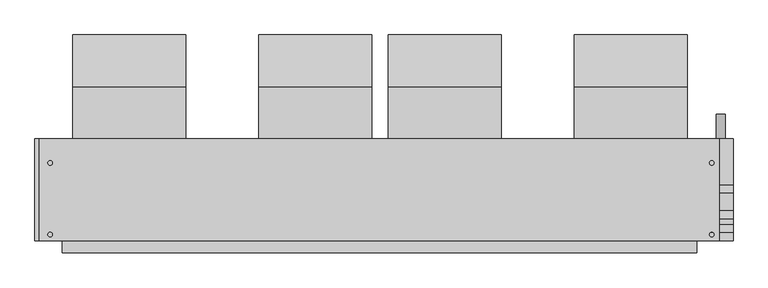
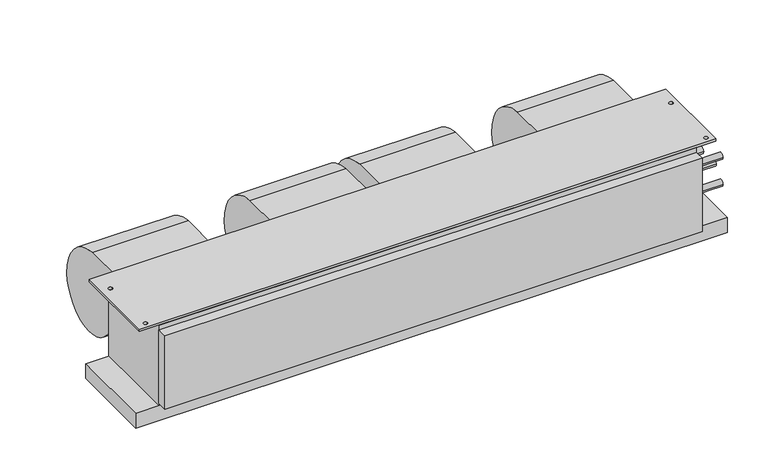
"""IFC4 building model written with IfcOpenShell, lengths in millimetres: proxy geometry, Concealed_Horizontal_Fan_Coil_Unit_-_42CAA_-_CARRIER_-_4-Pipe_RH_2022 : Size 10 - 277v/60Hz/1Ph - 4/1 Coil."""

from ifc_helpers import new_model, si_unit, point, frame, frame_2d, origin, place, context, project, spatial, polyline, circle_curve, trimmed, segment, composite_curve, outline, extrude, source, transform, mapped, element, save


def mechanical_equipment_12361658(model_context):
    return source(origin(), model_context, "Body", "SweptSolid", [
        extrude(outline(composite_curve([segment(trimmed(circle_curve(frame_2d((-33.198831, -136.0299844)), 117.3559541), [point((-23.8125, -19.05))], [point((84.1375, -138.176))], False, "CARTESIAN"), True, "CONTINUOUS"), segment(trimmed(circle_curve(frame_2d((-11.5977337, -136.4250563)), 95.7512443), [point((84.1375, -138.176))], [point((-23.8125, -231.394))], False, "CARTESIAN"), True, "CONTINUOUS"), segment(trimmed(circle_curve(frame_2d((-11.6288131, -136.6666968)), 95.5076133), [point((-23.8125, -231.394))], [point((-107.1245, -138.176))], False, "CARTESIAN"), True, "CONTINUOUS"), segment(trimmed(circle_curve(frame_2d((-126.2059828, -138.4775816)), 19.0838659), [point((-107.1245, -138.176))], [point((-119.3963373, -120.65))], True, "CARTESIAN"), True, "CONTINUOUS"), segment(polyline([(-119.3963373, -120.65), (-131.7625, -120.65), (-131.7625, -19.05), (-23.8125, -19.05)]), True, "CONTINUOUS")], self_intersect=False)), frame((558.038, 0.0, 0.0), z_axis=(1.0, 0.0, 0.0), x_axis=(0.0, 1.0, 0.0)), (0.0, 0.0, 1.0), 235.712),
        extrude(outline(composite_curve([segment(trimmed(circle_curve(frame_2d((-33.198831, -136.0299844)), 117.3559541), [point((-23.8125, -19.05))], [point((84.1375, -138.176))], False, "CARTESIAN"), True, "CONTINUOUS"), segment(trimmed(circle_curve(frame_2d((-11.5977337, -136.4250563)), 95.7512443), [point((84.1375, -138.176))], [point((-23.8125, -231.394))], False, "CARTESIAN"), True, "CONTINUOUS"), segment(trimmed(circle_curve(frame_2d((-11.6288131, -136.6666968)), 95.5076133), [point((-23.8125, -231.394))], [point((-107.1245, -138.176))], False, "CARTESIAN"), True, "CONTINUOUS"), segment(trimmed(circle_curve(frame_2d((-126.2059828, -138.4775816)), 19.0838659), [point((-107.1245, -138.176))], [point((-119.3963373, -120.65))], True, "CARTESIAN"), True, "CONTINUOUS"), segment(polyline([(-119.3963373, -120.65), (-131.7625, -120.65), (-131.7625, -19.05), (-23.8125, -19.05)]), True, "CONTINUOUS")], self_intersect=False)), frame((-486.537, 0.0, 0.0), z_axis=(1.0, 0.0, 0.0), x_axis=(0.0, 1.0, 0.0)), (0.0, 0.0, 1.0), 235.712),
        extrude(outline(composite_curve([segment(trimmed(circle_curve(frame_2d((-33.198831, -136.0299844)), 117.3559541), [point((-23.8125, -19.05))], [point((84.1375, -138.176))], False, "CARTESIAN"), True, "CONTINUOUS"), segment(trimmed(circle_curve(frame_2d((-11.5977337, -136.4250563)), 95.7512443), [point((84.1375, -138.176))], [point((-23.8125, -231.394))], False, "CARTESIAN"), True, "CONTINUOUS"), segment(trimmed(circle_curve(frame_2d((-11.6288131, -136.6666968)), 95.5076133), [point((-23.8125, -231.394))], [point((-107.1245, -138.176))], False, "CARTESIAN"), True, "CONTINUOUS"), segment(trimmed(circle_curve(frame_2d((-126.2059828, -138.4775816)), 19.0838659), [point((-107.1245, -138.176))], [point((-119.3963373, -120.65))], True, "CARTESIAN"), True, "CONTINUOUS"), segment(polyline([(-119.3963373, -120.65), (-131.7625, -120.65), (-131.7625, -19.05), (-23.8125, -19.05)]), True, "CONTINUOUS")], self_intersect=False)), frame((-99.187, 0.0, 0.0), z_axis=(1.0, 0.0, 0.0), x_axis=(0.0, 1.0, 0.0)), (0.0, 0.0, 1.0), 235.712),
        extrude(outline(composite_curve([segment(trimmed(circle_curve(frame_2d((-33.198831, -136.0299844)), 117.3559541), [point((-23.8125, -19.05))], [point((84.1375, -138.176))], False, "CARTESIAN"), True, "CONTINUOUS"), segment(trimmed(circle_curve(frame_2d((-11.5977337, -136.4250563)), 95.7512443), [point((84.1375, -138.176))], [point((-23.8125, -231.394))], False, "CARTESIAN"), True, "CONTINUOUS"), segment(trimmed(circle_curve(frame_2d((-11.6288131, -136.6666968)), 95.5076133), [point((-23.8125, -231.394))], [point((-107.1245, -138.176))], False, "CARTESIAN"), True, "CONTINUOUS"), segment(trimmed(circle_curve(frame_2d((-126.2059828, -138.4775816)), 19.0838659), [point((-107.1245, -138.176))], [point((-119.3963373, -120.65))], True, "CARTESIAN"), True, "CONTINUOUS"), segment(polyline([(-119.3963373, -120.65), (-131.7625, -120.65), (-131.7625, -19.05), (-23.8125, -19.05)]), True, "CONTINUOUS")], self_intersect=False)), frame((170.688, 0.0, 0.0), z_axis=(1.0, 0.0, 0.0), x_axis=(0.0, 1.0, 0.0)), (0.0, 0.0, 1.0), 235.712),
        extrude(outline(polyline([(860.425, -131.7625), (860.425, -344.4875), (-555.625, -344.4875), (-555.625, -131.7625), (860.425, -131.7625)]), holes=[composite_curve([segment(trimmed(circle_curve(frame_2d((-533.4, -182.5625)), 4.7625), [point((-538.1625, -182.5625))], [point((-528.6375, -182.5625))], True, "CARTESIAN"), True, "CONTINUOUS"), segment(trimmed(circle_curve(frame_2d((-533.4, -182.5625)), 4.7625), [point((-528.6375, -182.5625))], [point((-538.1625, -182.5625))], True, "CARTESIAN"), True, "CONTINUOUS")], self_intersect=False), composite_curve([segment(trimmed(circle_curve(frame_2d((-533.4, -331.7875)), 4.7625), [point((-538.1625, -331.7875))], [point((-528.6375, -331.7875))], True, "CARTESIAN"), True, "CONTINUOUS"), segment(trimmed(circle_curve(frame_2d((-533.4, -331.7875)), 4.7625), [point((-528.6375, -331.7875))], [point((-538.1625, -331.7875))], True, "CARTESIAN"), True, "CONTINUOUS")], self_intersect=False), composite_curve([segment(trimmed(circle_curve(frame_2d((844.55, -182.5625)), 4.7625), [point((839.7875, -182.5625))], [point((849.3125, -182.5625))], True, "CARTESIAN"), True, "CONTINUOUS"), segment(trimmed(circle_curve(frame_2d((844.55, -182.5625)), 4.7625), [point((849.3125, -182.5625))], [point((839.7875, -182.5625))], True, "CARTESIAN"), True, "CONTINUOUS")], self_intersect=False), composite_curve([segment(trimmed(circle_curve(frame_2d((844.55, -331.7875)), 4.7625), [point((839.7875, -331.7875))], [point((849.3125, -331.7875))], True, "CARTESIAN"), True, "CONTINUOUS"), segment(trimmed(circle_curve(frame_2d((844.55, -331.7875)), 4.7625), [point((849.3125, -331.7875))], [point((839.7875, -331.7875))], True, "CARTESIAN"), True, "CONTINUOUS")], self_intersect=False)]), frame((0.0, 0.0, -6.35), z_axis=(0.0, 0.0, 1.0), x_axis=(1.0, 0.0, 0.0)), (0.0, 0.0, 1.0), 6.35),
        extrude(outline(composite_curve([segment(trimmed(circle_curve(frame_2d((-241.3, 863.6)), 9.525), [point((-241.3, 854.075))], [point((-241.3, 873.125))], False, "CARTESIAN"), True, "CONTINUOUS"), segment(trimmed(circle_curve(frame_2d((-241.3, 863.6)), 9.525), [point((-241.3, 873.125))], [point((-241.3, 854.075))], False, "CARTESIAN"), True, "CONTINUOUS")], self_intersect=False)), frame((0.0, -131.7625, 0.0), z_axis=(0.0, 1.0, 0.0), x_axis=(0.0, 0.0, 1.0)), (0.0, 0.0, 1.0), 50.8),
        extrude(outline(polyline([(812.8, -369.8875), (-508.0, -369.8875), (-508.0, -344.4875), (812.8, -344.4875), (812.8, -369.8875)])), frame((0.0, 0.0, -209.55), z_axis=(0.0, 0.0, 1.0), x_axis=(1.0, 0.0, 0.0)), (0.0, 0.0, 1.0), 190.5),
        extrude(outline(polyline([(889.0, -131.7625), (889.0, -344.4875), (-565.15, -344.4875), (-565.15, -131.7625), (889.0, -131.7625)])), frame((0.0, 0.0, -254.0), z_axis=(0.0, 0.0, 1.0), x_axis=(1.0, 0.0, 0.0)), (0.0, 0.0, 1.0), 38.1),
        extrude(outline(composite_curve([segment(trimmed(circle_curve(frame_2d((-236.5375, -104.775)), 7.9375), [point((-244.475, -104.775))], [point((-228.6, -104.775))], False, "CARTESIAN"), True, "CONTINUOUS"), segment(trimmed(circle_curve(frame_2d((-236.5375, -104.775)), 7.9375), [point((-228.6, -104.775))], [point((-244.475, -104.775))], False, "CARTESIAN"), True, "CONTINUOUS")], self_intersect=False)), frame((812.8, 0.0, 0.0), z_axis=(1.0, 0.0, 0.0), x_axis=(0.0, 1.0, 0.0)), (0.0, 0.0, 1.0), 76.2),
        extrude(outline(composite_curve([segment(trimmed(circle_curve(frame_2d((-290.5125, -104.775)), 7.9375), [point((-298.45, -104.775))], [point((-282.575, -104.775))], False, "CARTESIAN"), True, "CONTINUOUS"), segment(trimmed(circle_curve(frame_2d((-290.5125, -104.775)), 7.9375), [point((-282.575, -104.775))], [point((-298.45, -104.775))], False, "CARTESIAN"), True, "CONTINUOUS")], self_intersect=False)), frame((812.8, 0.0, 0.0), z_axis=(1.0, 0.0, 0.0), x_axis=(0.0, 1.0, 0.0)), (0.0, 0.0, 1.0), 76.2),
        extrude(outline(composite_curve([segment(trimmed(circle_curve(frame_2d((-319.0875, -69.85)), 7.9375), [point((-327.025, -69.85))], [point((-311.15, -69.85))], False, "CARTESIAN"), True, "CONTINUOUS"), segment(trimmed(circle_curve(frame_2d((-319.0875, -69.85)), 7.9375), [point((-311.15, -69.85))], [point((-327.025, -69.85))], False, "CARTESIAN"), True, "CONTINUOUS")], self_intersect=False)), frame((812.8, 0.0, 0.0), z_axis=(1.0, 0.0, 0.0), x_axis=(0.0, 1.0, 0.0)), (0.0, 0.0, 1.0), 76.2),
        extrude(outline(composite_curve([segment(trimmed(circle_curve(frame_2d((-319.0875, -139.7)), 7.9375), [point((-327.025, -139.7))], [point((-311.15, -139.7))], False, "CARTESIAN"), True, "CONTINUOUS"), segment(trimmed(circle_curve(frame_2d((-319.0875, -139.7)), 7.9375), [point((-311.15, -139.7))], [point((-327.025, -139.7))], False, "CARTESIAN"), True, "CONTINUOUS")], self_intersect=False)), frame((812.8, 0.0, 0.0), z_axis=(1.0, 0.0, 0.0), x_axis=(0.0, 1.0, 0.0)), (0.0, 0.0, 1.0), 76.2),
        extrude(outline(polyline([(812.8, -344.4875), (-508.0, -344.4875), (-508.0, -131.7625), (812.8, -131.7625), (812.8, -344.4875)])), frame((0.0, 0.0, -215.9), z_axis=(0.0, 0.0, 1.0), x_axis=(1.0, 0.0, 0.0)), (0.0, 0.0, 1.0), 209.55),
    ])


if __name__ == "__main__":
    model = new_model("IFC4")
    model_context = context("Model", 3, world=origin())
    ifc_project = project(units=[si_unit("LENGTHUNIT", "METRE", prefix="MILLI")], contexts=[model_context])
    site = spatial("IfcSite", under=ifc_project)
    building = spatial("IfcBuilding", under=site)
    placement = place(None, origin())
    mechanical_equipment_shape = mechanical_equipment_12361658(model_context)
    element("IfcBuildingElementProxy", 1, Name="Concealed_Horizontal_Fan_Coil_Unit_-_42CAA_-_CARRIER_-_4-Pipe_RH_2022 : Size 10 - 277v/60Hz/1Ph - 4/1 Coil", ObjectType="Concealed_Horizontal_Fan_Coil_Unit_-_42CAA_-_CARRIER_-_4-Pipe_RH_2022 : Size 10 - 277v/60Hz/1Ph - 4/1 Coil", at=placement, inside=building, context=model_context, shape_type="MappedRepresentation", body=[
        mapped(mechanical_equipment_shape, transform((0.0, 0.0, 0.0), x_axis=(1.0, 0.0, 0.0), y_axis=(0.0, 1.0, 0.0), z_axis=(0.0, 0.0, 1.0))),
    ])
    save(model, "model.ifc")
